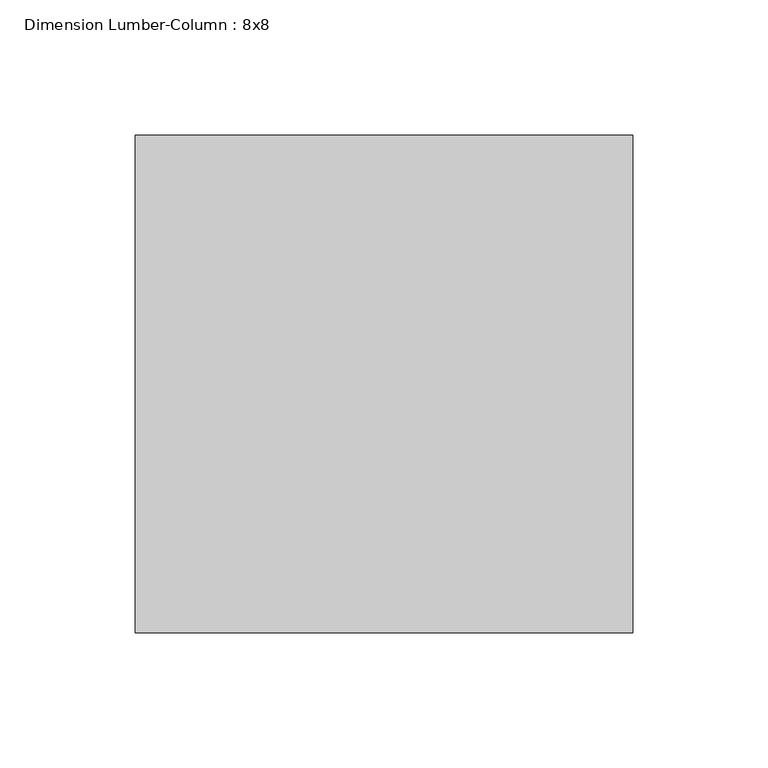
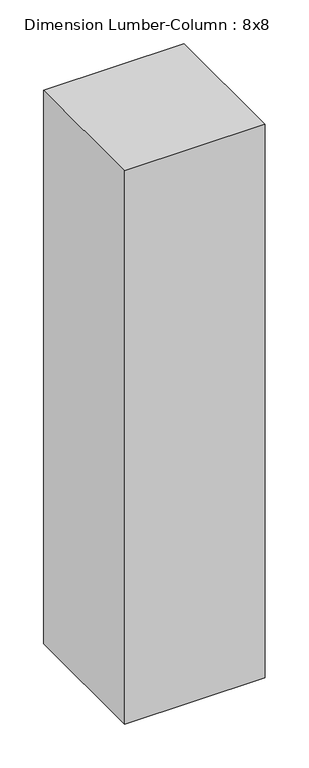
"""IFC4 building model written with IfcOpenShell, lengths in millimetres: column geometry, Dimension Lumber-Column : 8x8."""

from ifc_helpers import new_model, si_unit, frame, origin, place, context, project, spatial, polyline, outline, extrude, source, transform, mapped, element, save


def dimension_lumber_column_8x8_2579570d(model_context):
    return source(origin(), model_context, "Body", "SweptSolid", [
        extrude(outline(polyline([(92.075, 92.075), (92.075, -92.075), (-92.075, -92.075), (-92.075, 92.075), (92.075, 92.075)])), frame((0.0, 0.0, -158.75), z_axis=(0.0, 0.0, 1.0), x_axis=(1.0, 0.0, 0.0)), (0.0, 0.0, 1.0), 768.35),
    ])


if __name__ == "__main__":
    model = new_model("IFC4")
    model_context = context("Model", 3, world=origin())
    ifc_project = project(units=[si_unit("LENGTHUNIT", "METRE", prefix="MILLI")], contexts=[model_context])
    site = spatial("IfcSite", under=ifc_project)
    building = spatial("IfcBuilding", under=site)
    placement = place(None, origin())
    dimension_lumber_column_8x8_shape = dimension_lumber_column_8x8_2579570d(model_context)
    element("IfcColumn", 1, ObjectType="Dimension Lumber-Column : 8x8", at=placement, inside=building, context=model_context, shape_type="MappedRepresentation", body=[
        mapped(dimension_lumber_column_8x8_shape, transform((0.0, 0.0, 0.0), x_axis=(1.0, 0.0, 0.0), y_axis=(0.0, 1.0, 0.0), z_axis=(0.0, 0.0, 1.0))),
    ])
    save(model, "model.ifc")
